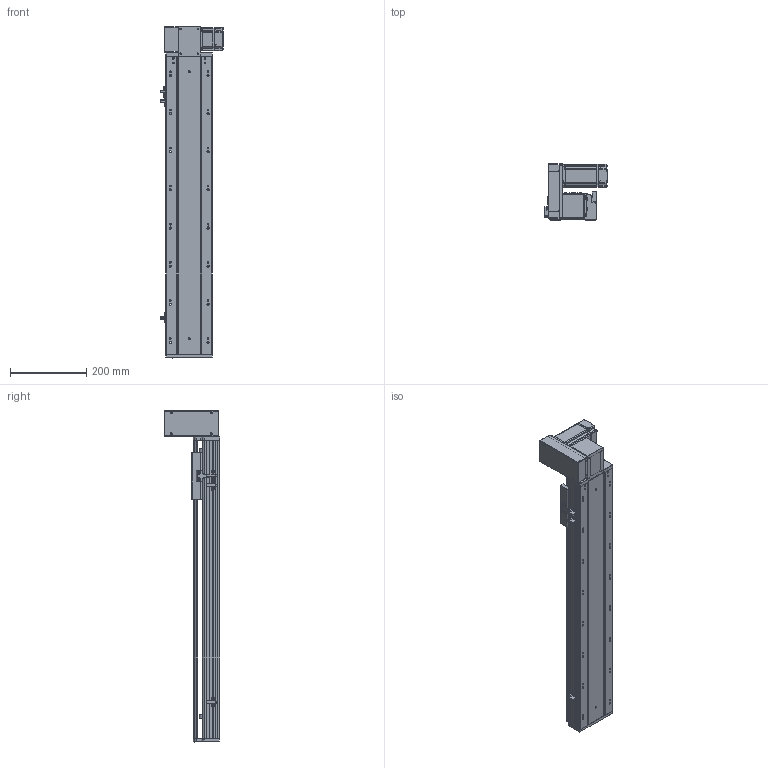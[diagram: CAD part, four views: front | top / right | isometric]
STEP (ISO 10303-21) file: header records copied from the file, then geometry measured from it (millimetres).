
FILE_DESCRIPTION (( 'STEP AP203' ), '1' );
FILE_NAME ('RY120-T-300-UL.SLDASM_550.step', '2021-03-01T05:35:27', ( '盈信电脑' ), ( '东莞市道滘镇水果街19号' ), 'SwSTEP 2.0', 'SolidWorks 2012', '' );
FILE_SCHEMA (( 'CONFIG_CONTROL_DESIGN' ));
Products named in the file (18): RY120-T蹟翐M4; RY120-T翋肮祭謫裔啣; RY120-T-300-UL.SLDASM_550; 滅袉蝶18-10; 侂狟400W侜督萇儂; RY120-T萇儂欶; RY120-T主同步轮轴承压盖; 15; RY120-T肮祭湍揤踡輸2; RY120-T翋肮祭盓傅釱; RY120-T萇儂假蚾啣; 覜茼ん672; RY120-T肮祭湍揤踡輸1; RY120外置感应片(140共用）; RY120肮祭湍臏賑輸; RY120綴裔啣; RY120-T-300-UL倰第奻裔啣_550; RY120-T-300-UL倰第菁釱_550
Assembly tree (23 placements, depth 3):
  RY120-T-300-UL.SLDASM_550
    RY120-T-300-UL倰第菁釱_550
    RY120-T-300-UL倰第奻裔啣_550
    RY120肮祭湍臏賑輸
    RY120綴裔啣
    覜茼ん672  x3
    RY120外置感应片(140共用）
    RY120-T肮祭湍揤踡輸1
    RY120-T肮祭湍揤踡輸2
    RY120-T翋肮祭盓傅釱
    RY120-T萇儂假蚾啣
    侂狟400W侜督萇儂
      15
    RY120-T主同步轮轴承压盖
    滅袉蝶18-10  x2
    RY120-T萇儂欶
    RY120-T蹟翐M4  x4
    RY120-T翋肮祭謫裔啣
Bounding box: 164.2 x 146 x 871 mm (x, y, z)
Volume: 2627552.6 mm3; surface area: 961200.6 mm2
Topology: 23 solids, 23 shells, 2802 faces, 7664 edges, 4936 vertices
Faces by surface type: plane 1426, cylinder 1064, cone 223, bspline 89
Entity records: 89948 total; most frequent: CARTESIAN_POINT 23172, ORIENTED_EDGE 13808, DIRECTION 12962, EDGE_CURVE 6904, VERTEX_POINT 4523, AXIS2_PLACEMENT_3D 4329, LINE 4304, VECTOR 4304
